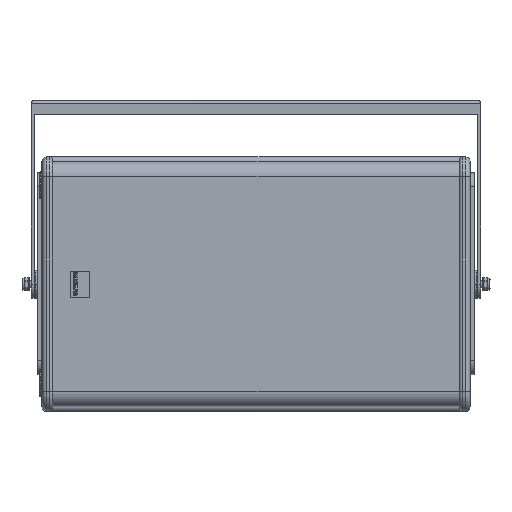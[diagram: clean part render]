
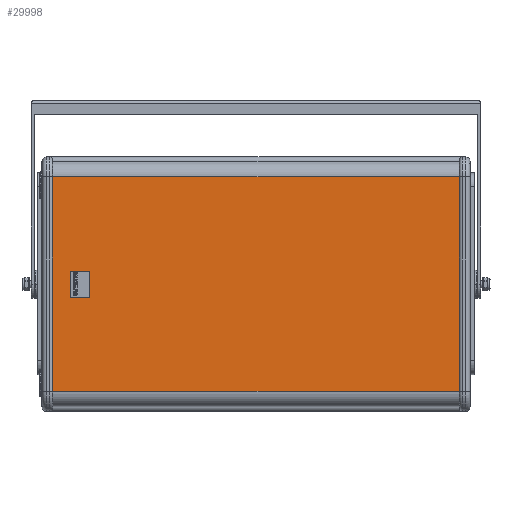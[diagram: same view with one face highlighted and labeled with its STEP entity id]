
A CAD part, top view. The second image highlights one B-rep face of the part: STEP entity #29998.
In plain terms, the highlighted planar face has unit normal (0, 0, 1) as drawn and (0, -1, 0) by its records, which use the part's own axes.
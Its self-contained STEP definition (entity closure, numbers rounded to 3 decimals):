
#17562 = DIRECTION ( 'NONE',  ( 0., 0., -1. ) ) ;
#17563 = DIRECTION ( 'NONE',  ( 0., -1., 0. ) ) ;
#17564 = CARTESIAN_POINT ( 'NONE',  ( 0., 6.43, -332. ) ) ;
#17566 = AXIS2_PLACEMENT_3D ( 'NONE', #17564, #17563, #17562 ) ;
#17567 = PLANE ( 'NONE',  #17566 ) ;
#17568 = FACE_OUTER_BOUND ( 'NONE', #30568, .T. ) ;
#19615 = DIRECTION ( 'NONE',  ( 1., 0., 0. ) ) ;
#19616 = VECTOR ( 'NONE', #19615, 1000. ) ;
#19617 = CARTESIAN_POINT ( 'NONE',  ( 0., 6.5, -28. ) ) ;
#19618 = LINE ( 'NONE', #19617, #19616 ) ;
#19657 = CARTESIAN_POINT ( 'NONE',  ( 576., 6.5, -28. ) ) ;
#19859 = CARTESIAN_POINT ( 'NONE',  ( 576., 6.43, -332. ) ) ;
#19973 = DIRECTION ( 'NONE',  ( 0., 0., -1. ) ) ;
#19974 = VECTOR ( 'NONE', #19973, 1000. ) ;
#19975 = CARTESIAN_POINT ( 'NONE',  ( 576., 6.5, -28. ) ) ;
#19976 = LINE ( 'NONE', #19975, #19974 ) ;
#20079 = CARTESIAN_POINT ( 'NONE',  ( 0., 6.5, -28. ) ) ;
#20126 = DIRECTION ( 'NONE',  ( -1., 0., 0. ) ) ;
#20127 = VECTOR ( 'NONE', #20126, 1000. ) ;
#20128 = CARTESIAN_POINT ( 'NONE',  ( 0., 6.43, -332. ) ) ;
#20129 = LINE ( 'NONE', #20128, #20127 ) ;
#20340 = CARTESIAN_POINT ( 'NONE',  ( 0., 6.43, -332. ) ) ;
#20766 = DIRECTION ( 'NONE',  ( 0., 0., -1. ) ) ;
#20767 = VECTOR ( 'NONE', #20766, 1000. ) ;
#20768 = CARTESIAN_POINT ( 'NONE',  ( 0., 6.5, -28. ) ) ;
#20769 = LINE ( 'NONE', #20768, #20767 ) ;
#29998 = ADVANCED_FACE ( 'NONE', ( #17568 ), #17567, .T. ) ;
#30568 = EDGE_LOOP ( 'NONE', ( #31489, #31102, #31034, #30898 ) ) ;
#30898 = ORIENTED_EDGE ( 'NONE', *, *, #30908, .F. ) ;
#30908 = EDGE_CURVE ( 'NONE', #31081, #30914, #19618, .T. ) ;
#30914 = VERTEX_POINT ( 'NONE', #19657 ) ;
#30996 = VERTEX_POINT ( 'NONE', #19859 ) ;
#31034 = ORIENTED_EDGE ( 'NONE', *, *, #31040, .F. ) ;
#31040 = EDGE_CURVE ( 'NONE', #30914, #30996, #19976, .T. ) ;
#31081 = VERTEX_POINT ( 'NONE', #20079 ) ;
#31102 = ORIENTED_EDGE ( 'NONE', *, *, #31109, .F. ) ;
#31109 = EDGE_CURVE ( 'NONE', #30996, #31202, #20129, .T. ) ;
#31202 = VERTEX_POINT ( 'NONE', #20340 ) ;
#31442 = EDGE_CURVE ( 'NONE', #31081, #31202, #20769, .T. ) ;
#31489 = ORIENTED_EDGE ( 'NONE', *, *, #31442, .T. ) ;
